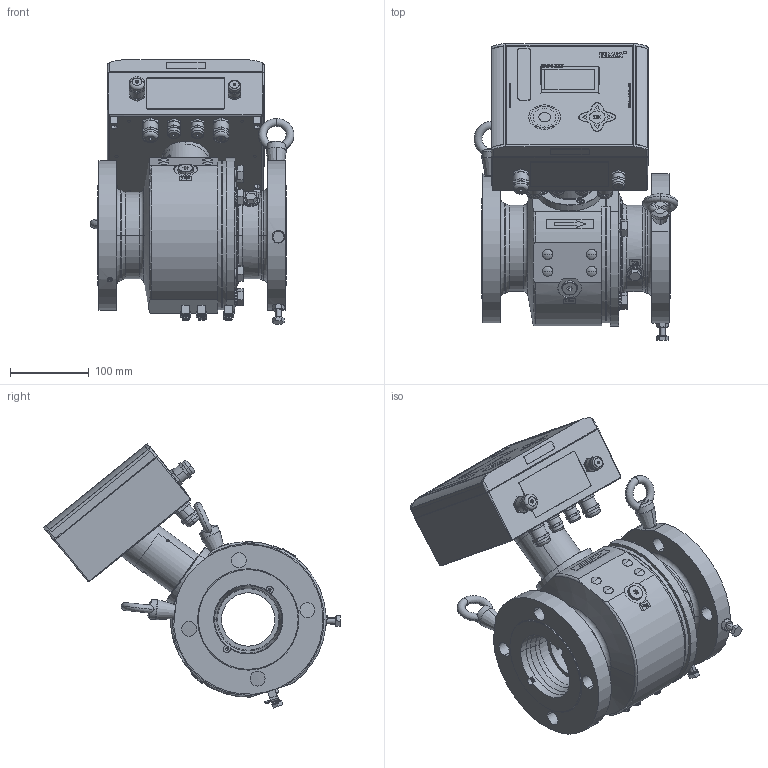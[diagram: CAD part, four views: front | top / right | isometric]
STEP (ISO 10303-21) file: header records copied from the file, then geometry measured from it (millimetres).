
FILE_DESCRIPTION((''),'2;1');
FILE_NAME('STANDARD_SW0001_LI_150','2023-09-11T07:05:56',('R85801'),(''),'CREO PARAMETRIC BY PTC INC, 2022281','CREO PARAMETRIC BY PTC INC, 2022281','');
FILE_SCHEMA(('AP242_MANAGED_MODEL_BASED_3D_ENGINEERING_MIM_LF { 1 0 10303 442 1 1 4 }'));
Length unit declared in the file: millimetre
Products named in the file (2): STANDARD_SW0001_LI_150; 10038_S235JRG2
Bounding box: 259.57 x 377.48 x 336.2 mm (x, y, z)
Volume: 4413673.4 mm3; surface area: 763591 mm2
Topology: 12 solids, 22 shells, 3903 faces, 9865 edges, 6262 vertices
Faces by surface type: plane 1886, cylinder 663, extrusion 632, cone 366, torus 280, sphere 40, bspline 36
Entity records: 185951 total; most frequent: CARTESIAN_POINT 30156, ORIENTED_EDGE 19602, DIRECTION 17739, PRESENTATION_STYLE_ASSIGNMENT 14240, STYLED_ITEM 10450, CURVE_STYLE 10437, EDGE_CURVE 9801, VECTOR 6495
